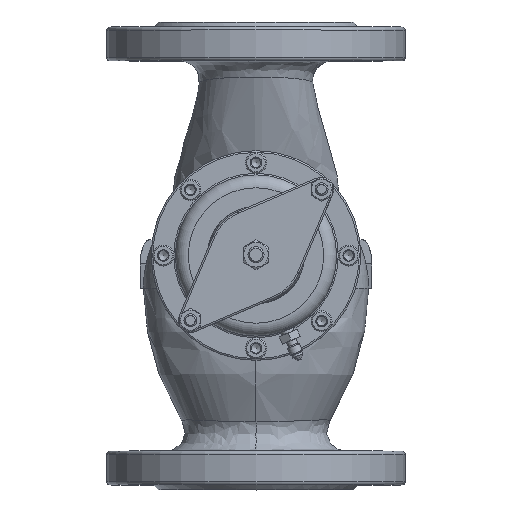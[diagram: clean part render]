
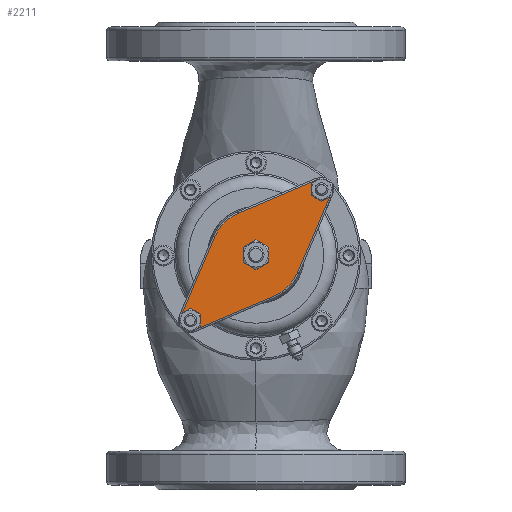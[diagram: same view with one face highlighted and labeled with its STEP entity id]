
A CAD part, top view. The second image highlights one B-rep face of the part: STEP entity #2211.
In plain terms, the highlighted planar face has unit normal (0, 0, 1) as drawn and (0, 1, 0) by its records, which use the part's own axes.
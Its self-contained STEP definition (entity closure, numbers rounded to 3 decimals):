
#2211=ADVANCED_FACE('',(#19474,#19476,#19478,#19480),#19482,.T.);
#19474=FACE_BOUND('',#19475,.T.);
#19475=EDGE_LOOP('',(#21987,#21988,#21989,#21990,#21991,#21992,#21993,#21994));
#19476=FACE_BOUND('',#19477,.T.);
#19477=EDGE_LOOP('',(#21995));
#19478=FACE_BOUND('',#19479,.T.);
#19479=EDGE_LOOP('',(#21996));
#19480=FACE_BOUND('',#19481,.T.);
#19481=EDGE_LOOP('',(#21997));
#19482=PLANE('',#19483);
#19483=AXIS2_PLACEMENT_3D('',#19484,#19485,#19486);
#19484=CARTESIAN_POINT('',(0.,335.5,0.));
#19485=DIRECTION('',(0.,1.,0.));
#19486=DIRECTION('',(0.,0.,1.));
#21987=ORIENTED_EDGE('',*,*,#23830,.T.);
#21988=ORIENTED_EDGE('',*,*,#23831,.T.);
#21989=ORIENTED_EDGE('',*,*,#23832,.T.);
#21990=ORIENTED_EDGE('',*,*,#23833,.T.);
#21991=ORIENTED_EDGE('',*,*,#23834,.T.);
#21992=ORIENTED_EDGE('',*,*,#23835,.T.);
#21993=ORIENTED_EDGE('',*,*,#23836,.T.);
#21994=ORIENTED_EDGE('',*,*,#23837,.T.);
#21995=ORIENTED_EDGE('',*,*,#23838,.T.);
#21996=ORIENTED_EDGE('',*,*,#23839,.T.);
#21997=ORIENTED_EDGE('',*,*,#23840,.T.);
#23830=EDGE_CURVE('',#24833,#24834,#24835,.T.);
#23831=EDGE_CURVE('',#24834,#24836,#24837,.T.);
#23832=EDGE_CURVE('',#24836,#24838,#24839,.T.);
#23833=EDGE_CURVE('',#24838,#24840,#24841,.T.);
#23834=EDGE_CURVE('',#24840,#24842,#24843,.T.);
#23835=EDGE_CURVE('',#24842,#24844,#24845,.T.);
#23836=EDGE_CURVE('',#24844,#24846,#24847,.T.);
#23837=EDGE_CURVE('',#24846,#24833,#24848,.T.);
#23838=EDGE_CURVE('',#24849,#24849,#24850,.F.);
#23839=EDGE_CURVE('',#24851,#24851,#24852,.F.);
#23840=EDGE_CURVE('',#24853,#24853,#24854,.F.);
#24833=VERTEX_POINT('',#33589);
#24834=VERTEX_POINT('',#33590);
#24835=LINE('',#33591,#33592);
#24836=VERTEX_POINT('',#33594);
#24837=CIRCLE('',#33595,28.);
#24838=VERTEX_POINT('',#33599);
#24839=LINE('',#33600,#33601);
#24840=VERTEX_POINT('',#33603);
#24841=CIRCLE('',#33604,6.5);
#24842=VERTEX_POINT('',#33608);
#24843=LINE('',#33609,#33610);
#24844=VERTEX_POINT('',#33612);
#24845=CIRCLE('',#33613,28.);
#24846=VERTEX_POINT('',#33617);
#24847=LINE('',#33618,#33619);
#24848=CIRCLE('',#33621,6.5);
#24849=VERTEX_POINT('',#33625);
#24850=CIRCLE('',#33626,5.);
#24851=VERTEX_POINT('',#33630);
#24852=CIRCLE('',#33631,6.);
#24853=VERTEX_POINT('',#33635);
#24854=CIRCLE('',#33636,5.);
#33589=CARTESIAN_POINT('',(-38.114,335.5,46.64));
#33590=CARTESIAN_POINT('',(10.96,335.5,25.766));
#33591=CARTESIAN_POINT('',(-38.114,335.5,46.64));
#33592=VECTOR('',#33593,1.);
#33593=DIRECTION('',(0.92,0.,-0.391));
#33594=CARTESIAN_POINT('',(25.766,335.5,10.96));
#33595=AXIS2_PLACEMENT_3D('',#33596,#33597,#33598);
#33596=CARTESIAN_POINT('',(0.,335.5,0.));
#33597=DIRECTION('',(0.,1.,0.));
#33598=DIRECTION('',(0.391,0.,0.92));
#33599=CARTESIAN_POINT('',(46.64,335.5,-38.114));
#33600=CARTESIAN_POINT('',(25.766,335.5,10.96));
#33601=VECTOR('',#33602,1.);
#33602=DIRECTION('',(0.391,0.,-0.92));
#33603=CARTESIAN_POINT('',(38.114,335.5,-46.64));
#33604=AXIS2_PLACEMENT_3D('',#33605,#33606,#33607);
#33605=CARTESIAN_POINT('',(40.659,335.5,-40.659));
#33606=DIRECTION('',(0.,1.,0.));
#33607=DIRECTION('',(0.92,0.,0.391));
#33608=CARTESIAN_POINT('',(-10.96,335.5,-25.766));
#33609=CARTESIAN_POINT('',(38.114,335.5,-46.64));
#33610=VECTOR('',#33611,1.);
#33611=DIRECTION('',(-0.92,0.,0.391));
#33612=CARTESIAN_POINT('',(-25.766,335.5,-10.96));
#33613=AXIS2_PLACEMENT_3D('',#33614,#33615,#33616);
#33614=CARTESIAN_POINT('',(0.,335.5,0.));
#33615=DIRECTION('',(0.,1.,0.));
#33616=DIRECTION('',(-0.391,0.,-0.92));
#33617=CARTESIAN_POINT('',(-46.64,335.5,38.114));
#33618=CARTESIAN_POINT('',(-25.766,335.5,-10.96));
#33619=VECTOR('',#33620,1.);
#33620=DIRECTION('',(-0.391,0.,0.92));
#33621=AXIS2_PLACEMENT_3D('',#33622,#33623,#33624);
#33622=CARTESIAN_POINT('',(-40.659,335.5,40.659));
#33623=DIRECTION('',(0.,1.,0.));
#33624=DIRECTION('',(-0.92,0.,-0.391));
#33625=CARTESIAN_POINT('',(-40.659,335.5,45.659));
#33626=AXIS2_PLACEMENT_3D('',#33627,#33628,#33629);
#33627=CARTESIAN_POINT('',(-40.659,335.5,40.659));
#33628=DIRECTION('',(0.,1.,0.));
#33629=DIRECTION('',(0.,0.,1.));
#33630=CARTESIAN_POINT('',(0.,335.5,6.));
#33631=AXIS2_PLACEMENT_3D('',#33632,#33633,#33634);
#33632=CARTESIAN_POINT('',(0.,335.5,0.));
#33633=DIRECTION('',(0.,1.,0.));
#33634=DIRECTION('',(0.,0.,1.));
#33635=CARTESIAN_POINT('',(40.659,335.5,-35.659));
#33636=AXIS2_PLACEMENT_3D('',#33637,#33638,#33639);
#33637=CARTESIAN_POINT('',(40.659,335.5,-40.659));
#33638=DIRECTION('',(0.,1.,0.));
#33639=DIRECTION('',(0.,0.,1.));
